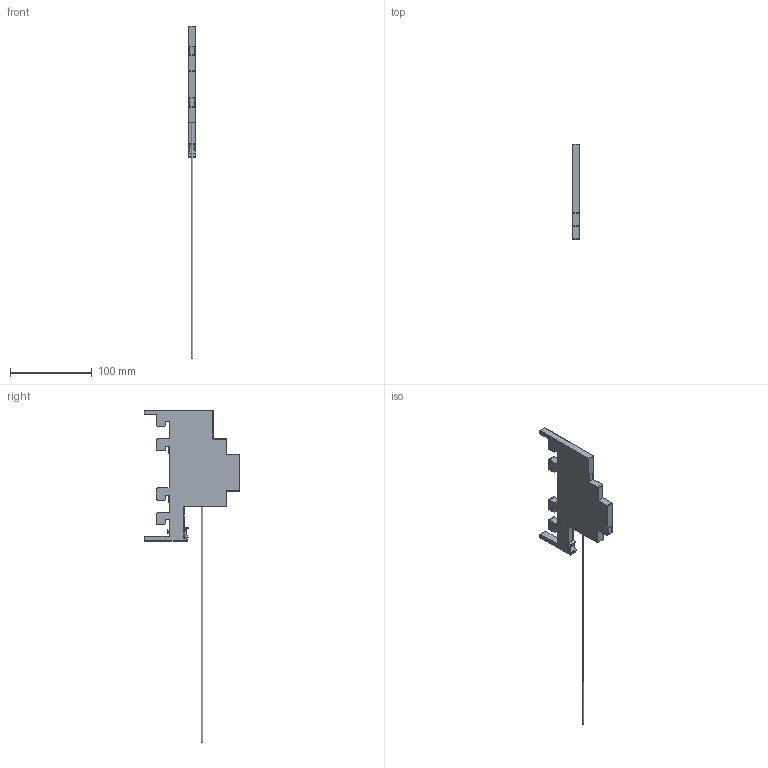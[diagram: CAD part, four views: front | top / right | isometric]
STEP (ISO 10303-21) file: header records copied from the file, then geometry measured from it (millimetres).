
FILE_DESCRIPTION (( 'STEP AP214' ), '1' );
FILE_NAME ('53634.STEP', '2021-03-22T01:20:49', ( '' ), ( '' ), 'SwSTEP 2.0', 'SolidWorks 2017', '' );
FILE_SCHEMA (( 'AUTOMOTIVE_DESIGN' ));
Length unit declared in the file: millimetre
Products named in the file (2): 53634
Bounding box: 9 x 116.2 x 405 mm (x, y, z)
Volume: 93956.5 mm3; surface area: 29674.7 mm2
Topology: 2 solids, 2 shells, 179 faces, 491 edges, 319 vertices
Faces by surface type: plane 113, cylinder 57, bspline 6, sphere 2, torus 1
Full cylindrical faces by diameter (mm): 2 x1
Entity records: 6191 total; most frequent: CARTESIAN_POINT 1236, ORIENTED_EDGE 976, DIRECTION 908, EDGE_CURVE 488, VECTOR 368, LINE 368, VERTEX_POINT 319, AXIS2_PLACEMENT_3D 270
